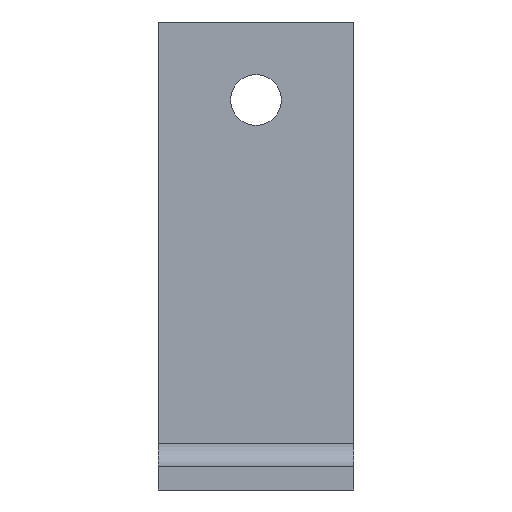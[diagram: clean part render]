
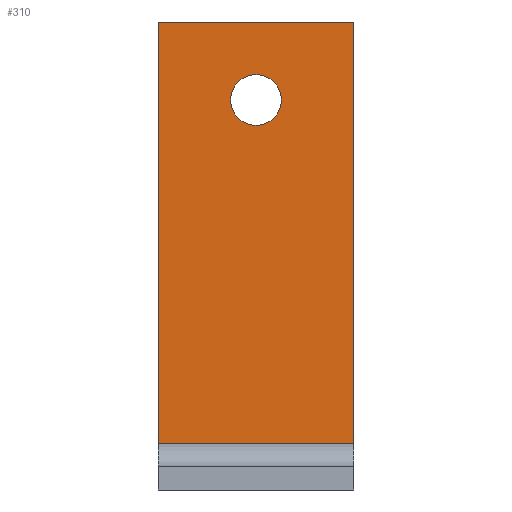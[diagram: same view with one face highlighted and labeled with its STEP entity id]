
A CAD part, front view. The second image highlights one B-rep face of the part: STEP entity #310.
In plain terms, the highlighted planar face has unit normal (0, -1, 0).
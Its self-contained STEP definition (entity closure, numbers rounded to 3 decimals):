
#129=CARTESIAN_POINT('',(3.25,-3.,50.0));
#130=VERTEX_POINT('',#129);
#131=CARTESIAN_POINT('',(0.0,-3.,50.0));
#132=DIRECTION('',(0.0,1.0,0.0));
#133=DIRECTION('',(-1.0,0.0,0.0));
#134=AXIS2_PLACEMENT_3D('',#131,#132,#133);
#135=CIRCLE('',#134,3.25);
#136=EDGE_CURVE('',#130,#130,#135,.T.);
#200=CARTESIAN_POINT('',(-12.5,-3.,60.0));
#201=VERTEX_POINT('',#200);
#202=CARTESIAN_POINT('',(-12.5,-3.,6.));
#203=VERTEX_POINT('',#202);
#204=CARTESIAN_POINT('',(-12.5,-3.,60.0));
#205=DIRECTION('',(0.0,0.0,-1.0));
#206=VECTOR('',#205,54.0);
#207=LINE('',#204,#206);
#208=EDGE_CURVE('',#201,#203,#207,.T.);
#266=CARTESIAN_POINT('',(12.5,-3.,60.0));
#267=VERTEX_POINT('',#266);
#268=CARTESIAN_POINT('',(12.5,-3.,60.0));
#269=DIRECTION('',(-1.0,0.0,0.0));
#270=VECTOR('',#269,25.0);
#271=LINE('',#268,#270);
#272=EDGE_CURVE('',#267,#201,#271,.T.);
#284=CARTESIAN_POINT('',(12.5,-3.,60.0));
#285=DIRECTION('',(0.0,-1.0,0.0));
#286=DIRECTION('',(0.0,0.0,-1.0));
#287=AXIS2_PLACEMENT_3D('',#284,#285,#286);
#288=PLANE('',#287);
#289=CARTESIAN_POINT('',(12.5,-3.,6.));
#290=VERTEX_POINT('',#289);
#291=CARTESIAN_POINT('',(12.5,-3.,6.));
#292=DIRECTION('',(-1.0,0.0,0.0));
#293=VECTOR('',#292,25.0);
#294=LINE('',#291,#293);
#295=EDGE_CURVE('',#290,#203,#294,.T.);
#296=ORIENTED_EDGE('',*,*,#295,.F.);
#297=CARTESIAN_POINT('',(12.5,-3.,6.));
#298=DIRECTION('',(0.0,0.0,1.0));
#299=VECTOR('',#298,54.0);
#300=LINE('',#297,#299);
#301=EDGE_CURVE('',#290,#267,#300,.T.);
#302=ORIENTED_EDGE('',*,*,#301,.T.);
#303=ORIENTED_EDGE('',*,*,#272,.T.);
#304=ORIENTED_EDGE('',*,*,#208,.T.);
#305=EDGE_LOOP('',(#296,#302,#303,#304));
#306=FACE_OUTER_BOUND('',#305,.T.);
#307=ORIENTED_EDGE('',*,*,#136,.T.);
#308=EDGE_LOOP('',(#307));
#309=FACE_BOUND('',#308,.T.);
#310=ADVANCED_FACE('',(#306,#309),#288,.T.);
